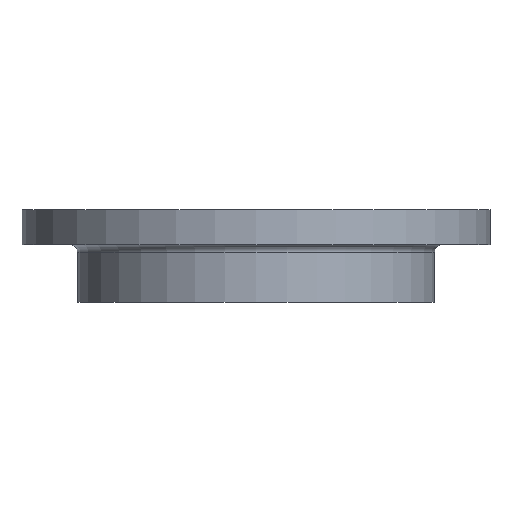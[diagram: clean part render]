
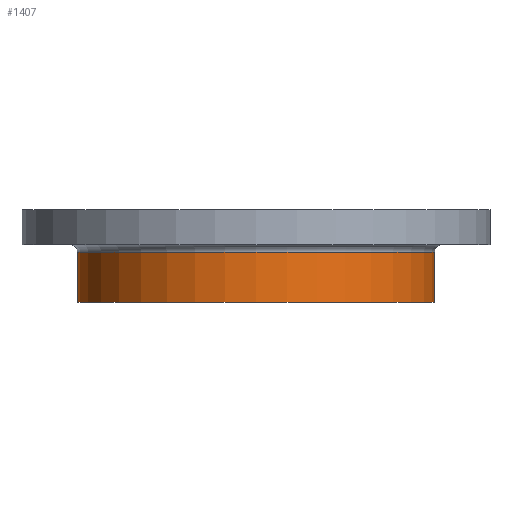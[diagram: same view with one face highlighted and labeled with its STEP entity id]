
A CAD part, front view. The second image highlights one B-rep face of the part: STEP entity #1407.
In plain terms, the highlighted cylindrical face has radius 288 mm (diameter 576 mm), a partial arc.
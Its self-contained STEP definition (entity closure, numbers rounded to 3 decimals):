
#10 = CARTESIAN_POINT ( 'NONE',  ( 288., 0., 0. ) ) ;
#295 = DIRECTION ( 'NONE',  ( 1., 0., 0. ) ) ;
#317 = CARTESIAN_POINT ( 'NONE',  ( -288., 0., -69. ) ) ;
#351 = DIRECTION ( 'NONE',  ( 0., 0., 1. ) ) ;
#391 = DIRECTION ( 'NONE',  ( 0., 0., 1. ) ) ;
#393 = AXIS2_PLACEMENT_3D ( 'NONE', #1630, #391, #940 ) ;
#419 = CYLINDRICAL_SURFACE ( 'NONE', #1279, 288. ) ;
#493 = VERTEX_POINT ( 'NONE', #769 ) ;
#513 = DIRECTION ( 'NONE',  ( 0., 0., 1. ) ) ;
#542 = DIRECTION ( 'NONE',  ( 0., 0., 1. ) ) ;
#560 = ORIENTED_EDGE ( 'NONE', *, *, #575, .F. ) ;
#575 = EDGE_CURVE ( 'NONE', #689, #1433, #614, .T. ) ;
#614 = CIRCLE ( 'NONE', #393, 288. ) ;
#664 = ORIENTED_EDGE ( 'NONE', *, *, #1150, .F. ) ;
#689 = VERTEX_POINT ( 'NONE', #317 ) ;
#769 = CARTESIAN_POINT ( 'NONE',  ( -288., 0., -150. ) ) ;
#839 = CIRCLE ( 'NONE', #872, 288. ) ;
#872 = AXIS2_PLACEMENT_3D ( 'NONE', #1740, #513, #1091 ) ;
#911 = VECTOR ( 'NONE', #542, 1000. ) ;
#912 = EDGE_CURVE ( 'NONE', #493, #1120, #839, .T. ) ;
#940 = DIRECTION ( 'NONE',  ( 1., 0., 0. ) ) ;
#968 = EDGE_CURVE ( 'NONE', #1120, #1433, #1269, .T. ) ;
#977 = CARTESIAN_POINT ( 'NONE',  ( 0., 0., 0. ) ) ;
#995 = VECTOR ( 'NONE', #351, 1000. ) ;
#1055 = LINE ( 'NONE', #1596, #995 ) ;
#1091 = DIRECTION ( 'NONE',  ( 1., 0., 0. ) ) ;
#1120 = VERTEX_POINT ( 'NONE', #1186 ) ;
#1150 = EDGE_CURVE ( 'NONE', #493, #689, #1055, .T. ) ;
#1186 = CARTESIAN_POINT ( 'NONE',  ( 288., 0., -150. ) ) ;
#1269 = LINE ( 'NONE', #10, #911 ) ;
#1274 = ORIENTED_EDGE ( 'NONE', *, *, #968, .T. ) ;
#1279 = AXIS2_PLACEMENT_3D ( 'NONE', #977, #1539, #295 ) ;
#1283 = CARTESIAN_POINT ( 'NONE',  ( 288., 0., -69. ) ) ;
#1407 = ADVANCED_FACE ( 'NONE', ( #1656 ), #419, .T. ) ;
#1433 = VERTEX_POINT ( 'NONE', #1283 ) ;
#1525 = EDGE_LOOP ( 'NONE', ( #664, #1642, #1274, #560 ) ) ;
#1539 = DIRECTION ( 'NONE',  ( 0., 0., 1. ) ) ;
#1596 = CARTESIAN_POINT ( 'NONE',  ( -288., 0., 0. ) ) ;
#1630 = CARTESIAN_POINT ( 'NONE',  ( 0., 0., -69. ) ) ;
#1642 = ORIENTED_EDGE ( 'NONE', *, *, #912, .T. ) ;
#1656 = FACE_OUTER_BOUND ( 'NONE', #1525, .T. ) ;
#1740 = CARTESIAN_POINT ( 'NONE',  ( 0., 0., -150. ) ) ;
